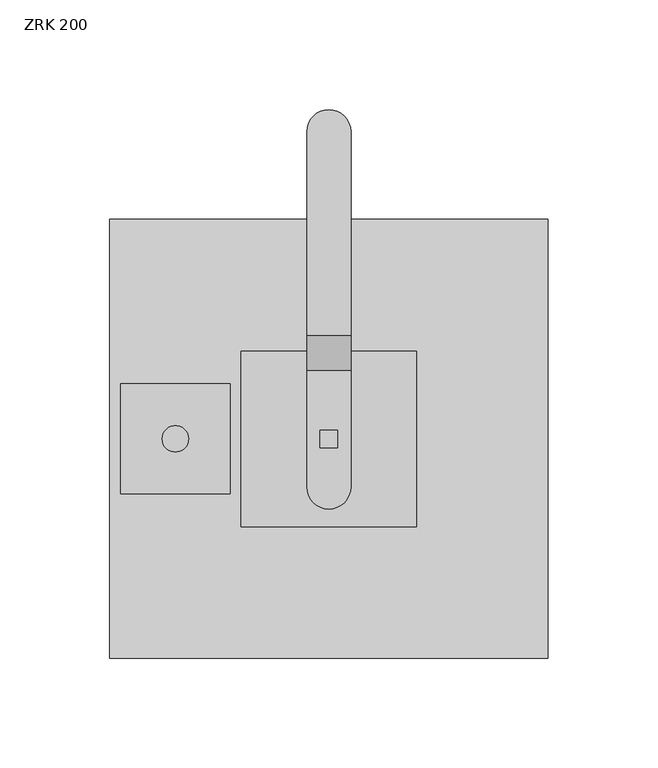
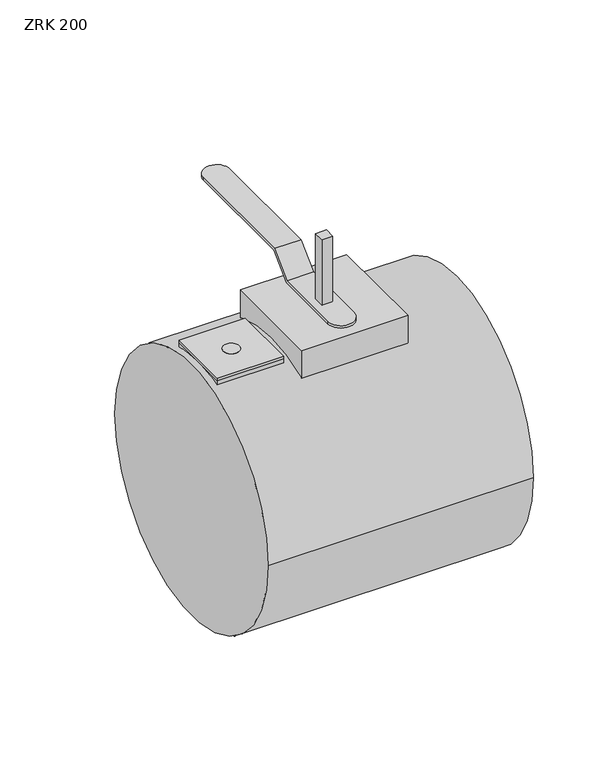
"""IFC4 building model written with IfcOpenShell, lengths in millimetres: damper geometry, KORF_Заслонка_Круглая_ZRK_Ручка : ZRK 200."""

from ifc_helpers import new_model, si_unit, point, frame, frame_2d, origin, origin_2d, place, context, project, spatial, polyline, circle_curve, trimmed, segment, composite_curve, outline, extrude, source, transform, mapped, element, save
from ifc_brep_helpers import plane_surface, cylinder_surface, revolved_surface, advanced_brep


def zrk_200_2ed01013(model_context):
    return source(origin(), model_context, "Body", "SolidModel", [
        extrude(outline(composite_curve([segment(trimmed(circle_curve(frame_2d((30.0, 0.0)), 6.0), [point((36.0, 0.0))], [point((24.0, 0.0))], False, "CARTESIAN"), True, "CONTINUOUS"), segment(trimmed(circle_curve(frame_2d((30.0, 0.0)), 6.0), [point((24.0, 0.0))], [point((36.0, 0.0))], False, "CARTESIAN"), True, "CONTINUOUS")], self_intersect=False)), frame((0.0, 0.0, 100.0), z_axis=(0.0, 0.0, 1.0), x_axis=(1.0, 0.0, 0.0)), (0.0, 0.0, 1.0), 2.0),
        extrude(outline(polyline([(55.0, 25.0), (55.0, -25.0), (5.0, -25.0), (5.0, 25.0), (55.0, 25.0)]), holes=[composite_curve([segment(trimmed(circle_curve(frame_2d((30.0, 0.0)), 6.0), [point((24.0, 0.0))], [point((36.0, 0.0))], True, "CARTESIAN"), True, "CONTINUOUS"), segment(trimmed(circle_curve(frame_2d((30.0, 0.0)), 6.0), [point((36.0, 0.0))], [point((24.0, 0.0))], True, "CARTESIAN"), True, "CONTINUOUS")], self_intersect=False)]), frame((0.0, 0.0, 100.0), z_axis=(0.0, 0.0, 1.0), x_axis=(1.0, 0.0, 0.0)), (0.0, 0.0, 1.0), 2.0),
        extrude(outline(composite_curve([segment(trimmed(circle_curve(origin_2d(), 100.0), [point((-100.0, 0.0))], [point((100.0, 0.0))], False, "CARTESIAN"), True, "CONTINUOUS"), segment(trimmed(circle_curve(origin_2d(), 100.0), [point((100.0, 0.0))], [point((-100.0, 0.0))], False, "CARTESIAN"), True, "CONTINUOUS")], self_intersect=False)), frame((0.0, 0.0, 0.0), z_axis=(1.0, 0.0, 0.0), x_axis=(0.0, 1.0, 0.0)), (0.0, 0.0, 1.0), 200.0),
        advanced_brep(
        [(55.0, 25.0, 100.0), (5.0, 25.0, 100.0), (5.0, 0.0, 100.0), (5.0, -25.0, 100.0), (55.0, -25.0, 100.0), (55.0, 0.0, 100.0), (55.0, 25.0, 96.8245837), (5.0, 25.0, 96.8245837), (5.0, -25.0, 96.8245837), (55.0, -25.0, 96.8245837)],
        [
            (0, 1),
            (1, 2),
            (2, 3),
            (3, 4),
            (4, 5),
            (5, 0),
            (0, 6),
            (6, 7),
            (7, 1),
            (7, 2, circle_curve(frame((5.0, 0.0, 0.0), z_axis=(1.0, 0.0, 0.0), x_axis=(0.0, 0.0, -1.0)), 100.0)),
            (2, 8, circle_curve(frame((5.0, 0.0, 0.0), z_axis=(1.0, 0.0, 0.0), x_axis=(0.0, 0.0, -1.0)), 100.0)),
            (8, 3),
            (8, 9),
            (9, 4),
            (9, 5, circle_curve(frame((55.0, 0.0, 0.0), z_axis=(-1.0, 0.0, 0.0), x_axis=(0.0, 0.0, -1.0)), 100.0)),
            (5, 6, circle_curve(frame((55.0, 0.0, 0.0), z_axis=(-1.0, 0.0, 0.0), x_axis=(0.0, 0.0, -1.0)), 100.0)),
        ],
        [
            plane_surface(frame((5.0, 25.0, 100.0), z_axis=(0.0, 0.0, 1.0), x_axis=(-1.0, 0.0, 0.0))),
            plane_surface(frame((55.0, 25.0, 100.0), z_axis=(0.0, 1.0, 0.0), x_axis=(0.0, 0.0, -1.0))),
            plane_surface(frame((5.0, 25.0, 100.0), z_axis=(-1.0, 0.0, 0.0), x_axis=(0.0, 0.0, -1.0))),
            plane_surface(frame((5.0, -25.0, 100.0), z_axis=(0.0, -1.0, 0.0), x_axis=(0.0, 0.0, -1.0))),
            plane_surface(frame((55.0, -25.0, 100.0), z_axis=(1.0, 0.0, 0.0), x_axis=(0.0, 0.0, -1.0))),
            revolved_surface(polyline([(5.0, 0.0, -100.0), (55.0, 0.0, -100.0)]), (200.0, 0.0, 0.0), (-1.0, 0.0, 0.0)),
        ],
        [
            (0, [[1, 2, 3, 4, 5, 6]]),
            (1, [[-1, 7, 8, 9]]),
            (2, [[-2, -9, 10]]),
            (2, [[-3, 11, 12]]),
            (3, [[-4, -12, 13, 14]]),
            (4, [[-5, -14, 15]]),
            (4, [[-6, 16, -7]]),
            (5, [[-8, -16, -15, -13, -11, -10]]),
        ],
    ),
        extrude(outline(composite_curve([segment(polyline([(-4.0, 168.0), (4.0, 168.0), (4.0, 99.919968)]), True, "CONTINUOUS"), segment(trimmed(circle_curve(origin_2d(), 100.0), [point((4.0, 99.919968))], [point((-4.0, 99.919968))], True, "CARTESIAN"), True, "CONTINUOUS"), segment(polyline([(-4.0, 99.919968), (-4.0, 168.0)]), True, "CONTINUOUS")], self_intersect=False)), frame((96.0, 0.0, 0.0), z_axis=(1.0, 0.0, 0.0), x_axis=(0.0, 1.0, 0.0)), (0.0, 0.0, 1.0), 8.0),
        advanced_brep(
        [(90.0, 48.0, 130.0), (90.0, 32.0, 114.0), (90.0, -22.0, 114.0), (90.0, -22.0, 116.0), (90.0, 31.1715729, 116.0), (90.0, 47.1715729, 132.0), (90.0, 140.0, 132.0), (90.0, 140.0, 130.0), (110.0, 47.1715729, 132.0), (110.0, 31.1715729, 116.0), (110.0, -22.0, 116.0), (110.0, -22.0, 114.0), (110.0, 32.0, 114.0), (110.0, 48.0, 130.0), (110.0, 140.0, 130.0), (110.0, 140.0, 132.0), (100.0, 150.0, 130.0), (100.0, 150.0, 132.0), (100.0, -32.0, 116.0), (96.0, 4.0, 116.0), (104.0, 4.0, 116.0), (104.0, -4.0, 116.0), (96.0, -4.0, 116.0), (100.0, -32.0, 114.0), (104.0, 4.0, 114.0), (96.0, 4.0, 114.0), (96.0, -4.0, 114.0), (104.0, -4.0, 114.0)],
        [
            (0, 1),
            (1, 2),
            (2, 3),
            (3, 4),
            (4, 5),
            (5, 6),
            (6, 7),
            (7, 0),
            (8, 9),
            (9, 10),
            (10, 11),
            (11, 12),
            (12, 13),
            (13, 14),
            (14, 15),
            (15, 8),
            (13, 0),
            (7, 16, circle_curve(frame((100.0, 140.0, 130.0), z_axis=(0.0, 0.0, -1.0), x_axis=(1.0, 0.0, 0.0)), 10.0)),
            (16, 14, circle_curve(frame((100.0, 140.0, 130.0), z_axis=(0.0, 0.0, -1.0), x_axis=(1.0, 0.0, 0.0)), 10.0)),
            (5, 8),
            (15, 17, circle_curve(frame((100.0, 140.0, 132.0), z_axis=(0.0, 0.0, 1.0), x_axis=(1.0, 0.0, 0.0)), 10.0)),
            (17, 6, circle_curve(frame((100.0, 140.0, 132.0), z_axis=(0.0, 0.0, 1.0), x_axis=(1.0, 0.0, 0.0)), 10.0)),
            (4, 9),
            (3, 18, circle_curve(frame((100.0, -22.0, 116.0), z_axis=(0.0, 0.0, 1.0), x_axis=(1.0, 0.0, 0.0)), 10.0)),
            (18, 10, circle_curve(frame((100.0, -22.0, 116.0), z_axis=(0.0, 0.0, 1.0), x_axis=(1.0, 0.0, 0.0)), 10.0)),
            (19, 20),
            (20, 21),
            (21, 22),
            (22, 19),
            (1, 12),
            (11, 23, circle_curve(frame((100.0, -22.0, 114.0), z_axis=(0.0, 0.0, -1.0), x_axis=(1.0, 0.0, 0.0)), 10.0)),
            (23, 2, circle_curve(frame((100.0, -22.0, 114.0), z_axis=(0.0, 0.0, -1.0), x_axis=(1.0, 0.0, 0.0)), 10.0)),
            (24, 25),
            (25, 26),
            (26, 27),
            (27, 24),
            (24, 20),
            (19, 25),
            (22, 26),
            (21, 27),
        ],
        [
            plane_surface(frame((90.0, 150.0, 130.0), z_axis=(-1.0, 0.0, 0.0), x_axis=(0.0, -1.0, 0.0))),
            plane_surface(frame((110.0, 150.0, 130.0), z_axis=(1.0, 0.0, 0.0), x_axis=(0.0, 1.0, 0.0))),
            plane_surface(frame((110.0, 48.0, 130.0), z_axis=(0.0, 0.0, -1.0), x_axis=(-1.0, 0.0, 0.0))),
            plane_surface(frame((110.0, 150.0, 132.0), z_axis=(0.0, 0.0, 1.0), x_axis=(-1.0, 0.0, 0.0))),
            plane_surface(frame((110.0, 47.1715729, 132.0), z_axis=(0.0, -0.7071067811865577, 0.7071067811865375), x_axis=(-1.0, 0.0, 0.0))),
            plane_surface(frame((110.0, 31.1715729, 116.0), z_axis=(0.0, 0.0, 1.0), x_axis=(-1.0, 0.0, 0.0))),
            plane_surface(frame((110.0, -32.0, 114.0), z_axis=(0.0, 0.0, -1.0), x_axis=(-1.0, 0.0, 0.0))),
            plane_surface(frame((110.0, 32.0, 114.0), z_axis=(0.0, 0.7071067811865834, -0.7071067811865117), x_axis=(-1.0, 0.0, 0.0))),
            plane_surface(frame((104.0, 4.0, 130.0), z_axis=(0.0, -1.0, 0.0), x_axis=(0.0, 0.0, -1.0))),
            plane_surface(frame((96.0, 4.0, 130.0), z_axis=(1.0, 0.0, 0.0), x_axis=(0.0, 0.0, -1.0))),
            plane_surface(frame((96.0, -4.0, 130.0), z_axis=(0.0, 1.0, 0.0), x_axis=(0.0, 0.0, -1.0))),
            plane_surface(frame((104.0, -4.0, 130.0), z_axis=(-1.0, 0.0, 0.0), x_axis=(0.0, 0.0, -1.0))),
            cylinder_surface(frame((100.0, 140.0, 114.0), z_axis=(0.0, 0.0, -1.0), x_axis=(1.0, 0.0, 0.0)), 10.0),
            cylinder_surface(frame((100.0, -22.0, 0.0), z_axis=(0.0, 0.0, -1.0), x_axis=(1.0, 0.0, 0.0)), 10.0),
        ],
        [
            (0, [[1, 2, 3, 4, 5, 6, 7, 8]]),
            (1, [[9, 10, 11, 12, 13, 14, 15, 16]]),
            (2, [[17, -8, 18, 19, -14]]),
            (3, [[20, -16, 21, 22, -6]]),
            (4, [[-5, 23, -9, -20]]),
            (5, [[-23, -4, 24, 25, -10], [26, 27, 28, 29]]),
            (6, [[30, -12, 31, 32, -2], [33, 34, 35, 36]]),
            (7, [[-1, -17, -13, -30]]),
            (8, [[37, -26, 38, -33]]),
            (9, [[-38, -29, 39, -34]]),
            (10, [[-39, -28, 40, -35]]),
            (11, [[-37, -36, -40, -27]]),
            (12, [[-7, -22, -21, -15, -19, -18]]),
            (13, [[-3, -32, -31, -11, -25, -24]]),
        ],
    ),
        advanced_brep(
        [(140.0, 40.0, 114.0), (60.0, 40.0, 114.0), (60.0, -40.0, 114.0), (140.0, -40.0, 114.0), (96.0, 4.0, 114.0), (104.0, 4.0, 114.0), (104.0, -4.0, 114.0), (96.0, -4.0, 114.0), (140.0, 40.0, 91.6515139), (60.0, 40.0, 91.6515139), (60.0, -40.0, 91.6515139), (140.0, -40.0, 91.6515139), (104.0, 4.0, 99.919968), (96.0, 4.0, 99.919968), (96.0, -4.0, 99.919968), (104.0, -4.0, 99.919968)],
        [
            (0, 1),
            (1, 2),
            (2, 3),
            (3, 0),
            (4, 5),
            (5, 6),
            (6, 7),
            (7, 4),
            (0, 8),
            (8, 9),
            (9, 1),
            (9, 10, circle_curve(frame((60.0, 0.0, 0.0), z_axis=(1.0, 0.0, 0.0), x_axis=(0.0, 0.0, -1.0)), 100.0)),
            (10, 2),
            (10, 11),
            (11, 3),
            (11, 8, circle_curve(frame((140.0, 0.0, 0.0), z_axis=(-1.0, 0.0, 0.0), x_axis=(0.0, 0.0, -1.0)), 100.0)),
            (12, 13),
            (13, 14, circle_curve(frame((96.0, 0.0, 0.0), z_axis=(1.0, 0.0, 0.0), x_axis=(0.0, 0.0, -1.0)), 100.0)),
            (14, 15),
            (15, 12, circle_curve(frame((104.0, 0.0, 0.0), z_axis=(-1.0, 0.0, 0.0), x_axis=(0.0, 0.0, -1.0)), 100.0)),
            (12, 5),
            (4, 13),
            (7, 14),
            (6, 15),
        ],
        [
            plane_surface(frame((60.0, 40.0, 114.0), z_axis=(0.0, 0.0, 1.0), x_axis=(-1.0, 0.0, 0.0))),
            plane_surface(frame((140.0, 40.0, 114.0), z_axis=(0.0, 1.0, 0.0), x_axis=(0.0, 0.0, -1.0))),
            plane_surface(frame((60.0, 40.0, 114.0), z_axis=(-1.0, 0.0, 0.0), x_axis=(0.0, 0.0, -1.0))),
            plane_surface(frame((60.0, -40.0, 114.0), z_axis=(0.0, -1.0, 0.0), x_axis=(0.0, 0.0, -1.0))),
            plane_surface(frame((140.0, -40.0, 114.0), z_axis=(1.0, 0.0, 0.0), x_axis=(0.0, 0.0, -1.0))),
            revolved_surface(polyline([(60.0, 0.0, -100.0), (140.0, 0.0, -100.0)]), (200.0, 0.0, 0.0), (-1.0, 0.0, 0.0)),
            plane_surface(frame((104.0, 4.0, 130.0), z_axis=(0.0, -1.0, 0.0), x_axis=(0.0, 0.0, -1.0))),
            plane_surface(frame((96.0, 4.0, 130.0), z_axis=(1.0, 0.0, 0.0), x_axis=(0.0, 0.0, -1.0))),
            plane_surface(frame((96.0, -4.0, 130.0), z_axis=(0.0, 1.0, 0.0), x_axis=(0.0, 0.0, -1.0))),
            plane_surface(frame((104.0, -4.0, 130.0), z_axis=(-1.0, 0.0, 0.0), x_axis=(0.0, 0.0, -1.0))),
        ],
        [
            (0, [[1, 2, 3, 4], [5, 6, 7, 8]]),
            (1, [[-1, 9, 10, 11]]),
            (2, [[-2, -11, 12, 13]]),
            (3, [[-3, -13, 14, 15]]),
            (4, [[-4, -15, 16, -9]]),
            (5, [[-10, -16, -14, -12], [17, 18, 19, 20]]),
            (6, [[21, -5, 22, -17]]),
            (7, [[-22, -8, 23, -18]]),
            (8, [[-23, -7, 24, -19]]),
            (9, [[-21, -20, -24, -6]]),
        ],
    ),
    ])


if __name__ == "__main__":
    model = new_model("IFC4")
    model_context = context("Model", 3, world=origin())
    ifc_project = project(units=[si_unit("LENGTHUNIT", "METRE", prefix="MILLI")], contexts=[model_context])
    site = spatial("IfcSite", under=ifc_project)
    building = spatial("IfcBuilding", under=site)
    placement = place(None, origin())
    zrk_200_shape = zrk_200_2ed01013(model_context)
    element("IfcDamper", 1, ObjectType="KORF_Заслонка_Круглая_ZRK_Ручка : ZRK 200", at=placement, inside=building, context=model_context, shape_type="MappedRepresentation", body=[
        mapped(zrk_200_shape, transform((0.0, 0.0, 0.0), x_axis=(1.0, 0.0, 0.0), y_axis=(0.0, 1.0, 0.0), z_axis=(0.0, 0.0, 1.0))),
    ])
    save(model, "model.ifc")
